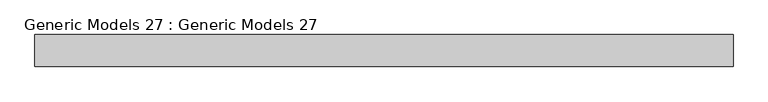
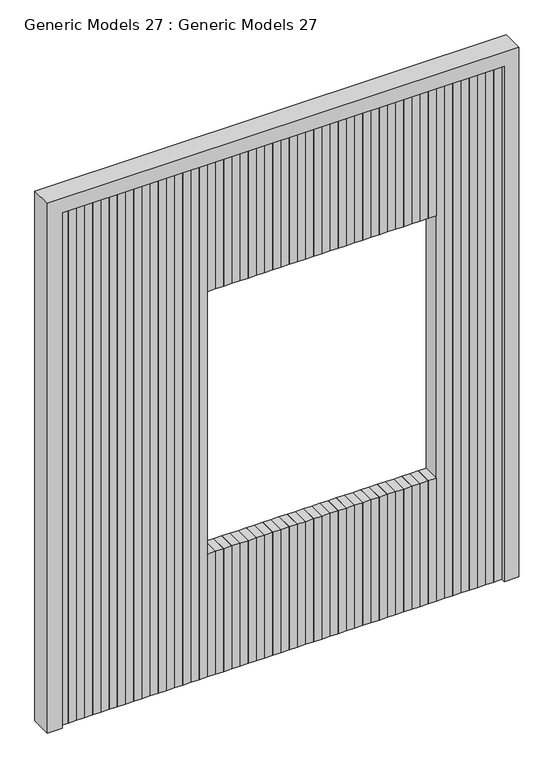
"""IFC4 building model written with IfcOpenShell, lengths in millimetres: proxy geometry, Generic Models 27 : Generic Models 27."""

from ifc_helpers import new_model, si_unit, frame, origin, place, context, project, spatial, polyline, outline, extrude, source, transform, mapped, element, save


def generic_models_27_generic_models_27_ee769881(model_context):
    return source(origin(), model_context, "Body", "SweptSolid", [
        extrude(outline(polyline([(-9366.3710399, -1835.2290985), (-9394.1375598, -1835.2290985), (-9394.1375598, -1775.9666501), (-9366.3710399, -1775.9666501), (-9366.3710399, -1835.2290985)])), frame((0.0, 0.0, 300.0), z_axis=(0.0, 0.0, 1.0), x_axis=(1.0, 0.0, 0.0)), (0.0, 0.0, 1.0), 1850.0),
        extrude(outline(polyline([(-9338.60452, -1835.2290985), (-9366.3710399, -1835.2290985), (-9366.3710399, -1775.9666501), (-9338.60452, -1775.9666501), (-9338.60452, -1835.2290985)])), frame((0.0, 0.0, 1682.5612123), z_axis=(0.0, 0.0, 1.0), x_axis=(1.0, 0.0, 0.0)), (0.0, 0.0, 1.0), 467.4387877),
        extrude(outline(polyline([(-9338.60452, -1835.2290985), (-9366.3710399, -1835.2290985), (-9366.3710399, -1775.9666501), (-9338.60452, -1775.9666501), (-9338.60452, -1835.2290985)])), frame((0.0, 0.0, 300.0), z_axis=(0.0, 0.0, 1.0), x_axis=(1.0, 0.0, 0.0)), (0.0, 0.0, 1.0), 440.9262315),
        extrude(outline(polyline([(-9310.8380002, -1835.2290985), (-9338.60452, -1835.2290985), (-9338.60452, -1775.9666501), (-9310.8380002, -1775.9666501), (-9310.8380002, -1835.2290985)])), frame((0.0, 0.0, 1682.5612123), z_axis=(0.0, 0.0, 1.0), x_axis=(1.0, 0.0, 0.0)), (0.0, 0.0, 1.0), 467.4387877),
        extrude(outline(polyline([(-9310.8380002, -1835.2290985), (-9338.60452, -1835.2290985), (-9338.60452, -1775.9666501), (-9310.8380002, -1775.9666501), (-9310.8380002, -1835.2290985)])), frame((0.0, 0.0, 300.0), z_axis=(0.0, 0.0, 1.0), x_axis=(1.0, 0.0, 0.0)), (0.0, 0.0, 1.0), 440.9262315),
        extrude(outline(polyline([(-9283.0714803, -1835.2290985), (-9310.8380002, -1835.2290985), (-9310.8380002, -1775.9666501), (-9283.0714803, -1775.9666501), (-9283.0714803, -1835.2290985)])), frame((0.0, 0.0, 1682.5612123), z_axis=(0.0, 0.0, 1.0), x_axis=(1.0, 0.0, 0.0)), (0.0, 0.0, 1.0), 467.4387877),
        extrude(outline(polyline([(-9283.0714803, -1835.2290985), (-9310.8380002, -1835.2290985), (-9310.8380002, -1775.9666501), (-9283.0714803, -1775.9666501), (-9283.0714803, -1835.2290985)])), frame((0.0, 0.0, 300.0), z_axis=(0.0, 0.0, 1.0), x_axis=(1.0, 0.0, 0.0)), (0.0, 0.0, 1.0), 440.9262315),
        extrude(outline(polyline([(-9255.3049604, -1835.2290985), (-9283.0714803, -1835.2290985), (-9283.0714803, -1775.9666501), (-9255.3049604, -1775.9666501), (-9255.3049604, -1835.2290985)])), frame((0.0, 0.0, 1682.5612123), z_axis=(0.0, 0.0, 1.0), x_axis=(1.0, 0.0, 0.0)), (0.0, 0.0, 1.0), 467.4387877),
        extrude(outline(polyline([(-9255.3049604, -1835.2290985), (-9283.0714803, -1835.2290985), (-9283.0714803, -1775.9666501), (-9255.3049604, -1775.9666501), (-9255.3049604, -1835.2290985)])), frame((0.0, 0.0, 300.0), z_axis=(0.0, 0.0, 1.0), x_axis=(1.0, 0.0, 0.0)), (0.0, 0.0, 1.0), 440.9262315),
        extrude(outline(polyline([(-9227.5384405, -1835.2290985), (-9255.3049604, -1835.2290985), (-9255.3049604, -1775.9666501), (-9227.5384405, -1775.9666501), (-9227.5384405, -1835.2290985)])), frame((0.0, 0.0, 1682.5612123), z_axis=(0.0, 0.0, 1.0), x_axis=(1.0, 0.0, 0.0)), (0.0, 0.0, 1.0), 467.4387877),
        extrude(outline(polyline([(-9227.5384405, -1835.2290985), (-9255.3049604, -1835.2290985), (-9255.3049604, -1775.9666501), (-9227.5384405, -1775.9666501), (-9227.5384405, -1835.2290985)])), frame((0.0, 0.0, 300.0), z_axis=(0.0, 0.0, 1.0), x_axis=(1.0, 0.0, 0.0)), (0.0, 0.0, 1.0), 440.9262315),
        extrude(outline(polyline([(-9199.7719206, -1835.2290985), (-9227.5384405, -1835.2290985), (-9227.5384405, -1775.9666501), (-9199.7719206, -1775.9666501), (-9199.7719206, -1835.2290985)])), frame((0.0, 0.0, 1682.5612123), z_axis=(0.0, 0.0, 1.0), x_axis=(1.0, 0.0, 0.0)), (0.0, 0.0, 1.0), 467.4387877),
        extrude(outline(polyline([(-9199.7719206, -1835.2290985), (-9227.5384405, -1835.2290985), (-9227.5384405, -1775.9666501), (-9199.7719206, -1775.9666501), (-9199.7719206, -1835.2290985)])), frame((0.0, 0.0, 300.0), z_axis=(0.0, 0.0, 1.0), x_axis=(1.0, 0.0, 0.0)), (0.0, 0.0, 1.0), 440.9262315),
        extrude(outline(polyline([(-9172.0054007, -1835.2290985), (-9199.7719206, -1835.2290985), (-9199.7719206, -1775.9666501), (-9172.0054007, -1775.9666501), (-9172.0054007, -1835.2290985)])), frame((0.0, 0.0, 1682.5612123), z_axis=(0.0, 0.0, 1.0), x_axis=(1.0, 0.0, 0.0)), (0.0, 0.0, 1.0), 467.4387877),
        extrude(outline(polyline([(-9172.0054007, -1835.2290985), (-9199.7719206, -1835.2290985), (-9199.7719206, -1775.9666501), (-9172.0054007, -1775.9666501), (-9172.0054007, -1835.2290985)])), frame((0.0, 0.0, 300.0), z_axis=(0.0, 0.0, 1.0), x_axis=(1.0, 0.0, 0.0)), (0.0, 0.0, 1.0), 440.9262315),
        extrude(outline(polyline([(-9144.2388809, -1835.2290985), (-9172.0054007, -1835.2290985), (-9172.0054007, -1775.9666501), (-9144.2388809, -1775.9666501), (-9144.2388809, -1835.2290985)])), frame((0.0, 0.0, 1682.5612123), z_axis=(0.0, 0.0, 1.0), x_axis=(1.0, 0.0, 0.0)), (0.0, 0.0, 1.0), 467.4387877),
        extrude(outline(polyline([(-9144.2388809, -1835.2290985), (-9172.0054007, -1835.2290985), (-9172.0054007, -1775.9666501), (-9144.2388809, -1775.9666501), (-9144.2388809, -1835.2290985)])), frame((0.0, 0.0, 300.0), z_axis=(0.0, 0.0, 1.0), x_axis=(1.0, 0.0, 0.0)), (0.0, 0.0, 1.0), 440.9262315),
        extrude(outline(polyline([(-9116.472361, -1835.2290985), (-9144.2388809, -1835.2290985), (-9144.2388809, -1775.9666501), (-9116.472361, -1775.9666501), (-9116.472361, -1835.2290985)])), frame((0.0, 0.0, 1682.5612123), z_axis=(0.0, 0.0, 1.0), x_axis=(1.0, 0.0, 0.0)), (0.0, 0.0, 1.0), 467.4387877),
        extrude(outline(polyline([(-9116.472361, -1835.2290985), (-9144.2388809, -1835.2290985), (-9144.2388809, -1775.9666501), (-9116.472361, -1775.9666501), (-9116.472361, -1835.2290985)])), frame((0.0, 0.0, 300.0), z_axis=(0.0, 0.0, 1.0), x_axis=(1.0, 0.0, 0.0)), (0.0, 0.0, 1.0), 440.9262315),
        extrude(outline(polyline([(-9088.7058411, -1835.2290985), (-9116.472361, -1835.2290985), (-9116.472361, -1775.9666501), (-9088.7058411, -1775.9666501), (-9088.7058411, -1835.2290985)])), frame((0.0, 0.0, 1682.5612123), z_axis=(0.0, 0.0, 1.0), x_axis=(1.0, 0.0, 0.0)), (0.0, 0.0, 1.0), 467.4387877),
        extrude(outline(polyline([(-9088.7058411, -1835.2290985), (-9116.472361, -1835.2290985), (-9116.472361, -1775.9666501), (-9088.7058411, -1775.9666501), (-9088.7058411, -1835.2290985)])), frame((0.0, 0.0, 300.0), z_axis=(0.0, 0.0, 1.0), x_axis=(1.0, 0.0, 0.0)), (0.0, 0.0, 1.0), 440.9262315),
        extrude(outline(polyline([(-9060.9393212, -1835.2290985), (-9088.7058411, -1835.2290985), (-9088.7058411, -1775.9666501), (-9060.9393212, -1775.9666501), (-9060.9393212, -1835.2290985)])), frame((0.0, 0.0, 1682.5612123), z_axis=(0.0, 0.0, 1.0), x_axis=(1.0, 0.0, 0.0)), (0.0, 0.0, 1.0), 467.4387877),
        extrude(outline(polyline([(-9060.9393212, -1835.2290985), (-9088.7058411, -1835.2290985), (-9088.7058411, -1775.9666501), (-9060.9393212, -1775.9666501), (-9060.9393212, -1835.2290985)])), frame((0.0, 0.0, 300.0), z_axis=(0.0, 0.0, 1.0), x_axis=(1.0, 0.0, 0.0)), (0.0, 0.0, 1.0), 440.9262315),
        extrude(outline(polyline([(-9033.1728013, -1835.2290985), (-9060.9393212, -1835.2290985), (-9060.9393212, -1775.9666501), (-9033.1728013, -1775.9666501), (-9033.1728013, -1835.2290985)])), frame((0.0, 0.0, 1682.5612123), z_axis=(0.0, 0.0, 1.0), x_axis=(1.0, 0.0, 0.0)), (0.0, 0.0, 1.0), 467.4387877),
        extrude(outline(polyline([(-9033.1728013, -1835.2290985), (-9060.9393212, -1835.2290985), (-9060.9393212, -1775.9666501), (-9033.1728013, -1775.9666501), (-9033.1728013, -1835.2290985)])), frame((0.0, 0.0, 300.0), z_axis=(0.0, 0.0, 1.0), x_axis=(1.0, 0.0, 0.0)), (0.0, 0.0, 1.0), 440.9262315),
        extrude(outline(polyline([(-9005.4062814, -1835.2290985), (-9033.1728013, -1835.2290985), (-9033.1728013, -1775.9666501), (-9005.4062814, -1775.9666501), (-9005.4062814, -1835.2290985)])), frame((0.0, 0.0, 1682.5612123), z_axis=(0.0, 0.0, 1.0), x_axis=(1.0, 0.0, 0.0)), (0.0, 0.0, 1.0), 467.4387877),
        extrude(outline(polyline([(-9005.4062814, -1835.2290985), (-9033.1728013, -1835.2290985), (-9033.1728013, -1775.9666501), (-9005.4062814, -1775.9666501), (-9005.4062814, -1835.2290985)])), frame((0.0, 0.0, 300.0), z_axis=(0.0, 0.0, 1.0), x_axis=(1.0, 0.0, 0.0)), (0.0, 0.0, 1.0), 440.9262315),
        extrude(outline(polyline([(-8977.6397615, -1835.2290985), (-9005.4062814, -1835.2290985), (-9005.4062814, -1775.9666501), (-8977.6397615, -1775.9666501), (-8977.6397615, -1835.2290985)])), frame((0.0, 0.0, 1682.5612123), z_axis=(0.0, 0.0, 1.0), x_axis=(1.0, 0.0, 0.0)), (0.0, 0.0, 1.0), 467.4387877),
        extrude(outline(polyline([(-8977.6397615, -1835.2290985), (-9005.4062814, -1835.2290985), (-9005.4062814, -1775.9666501), (-8977.6397615, -1775.9666501), (-8977.6397615, -1835.2290985)])), frame((0.0, 0.0, 300.0), z_axis=(0.0, 0.0, 1.0), x_axis=(1.0, 0.0, 0.0)), (0.0, 0.0, 1.0), 440.9262315),
        extrude(outline(polyline([(-8949.8732417, -1835.2290985), (-8977.6397615, -1835.2290985), (-8977.6397615, -1775.9666501), (-8949.8732417, -1775.9666501), (-8949.8732417, -1835.2290985)])), frame((0.0, 0.0, 1682.5612123), z_axis=(0.0, 0.0, 1.0), x_axis=(1.0, 0.0, 0.0)), (0.0, 0.0, 1.0), 467.4387877),
        extrude(outline(polyline([(-8949.8732417, -1835.2290985), (-8977.6397615, -1835.2290985), (-8977.6397615, -1775.9666501), (-8949.8732417, -1775.9666501), (-8949.8732417, -1835.2290985)])), frame((0.0, 0.0, 300.0), z_axis=(0.0, 0.0, 1.0), x_axis=(1.0, 0.0, 0.0)), (0.0, 0.0, 1.0), 440.9262315),
        extrude(outline(polyline([(-8922.1067218, -1835.2290985), (-8949.8732417, -1835.2290985), (-8949.8732417, -1775.9666501), (-8922.1067218, -1775.9666501), (-8922.1067218, -1835.2290985)])), frame((0.0, 0.0, 1682.5612123), z_axis=(0.0, 0.0, 1.0), x_axis=(1.0, 0.0, 0.0)), (0.0, 0.0, 1.0), 467.4387877),
        extrude(outline(polyline([(-8922.1067218, -1835.2290985), (-8949.8732417, -1835.2290985), (-8949.8732417, -1775.9666501), (-8922.1067218, -1775.9666501), (-8922.1067218, -1835.2290985)])), frame((0.0, 0.0, 300.0), z_axis=(0.0, 0.0, 1.0), x_axis=(1.0, 0.0, 0.0)), (0.0, 0.0, 1.0), 440.9262315),
        extrude(outline(polyline([(-8894.3402019, -1835.2290985), (-8922.1067218, -1835.2290985), (-8922.1067218, -1775.9666501), (-8894.3402019, -1775.9666501), (-8894.3402019, -1835.2290985)])), frame((0.0, 0.0, 1682.5612123), z_axis=(0.0, 0.0, 1.0), x_axis=(1.0, 0.0, 0.0)), (0.0, 0.0, 1.0), 467.4387877),
        extrude(outline(polyline([(-8894.3402019, -1835.2290985), (-8922.1067218, -1835.2290985), (-8922.1067218, -1775.9666501), (-8894.3402019, -1775.9666501), (-8894.3402019, -1835.2290985)])), frame((0.0, 0.0, 300.0), z_axis=(0.0, 0.0, 1.0), x_axis=(1.0, 0.0, 0.0)), (0.0, 0.0, 1.0), 440.9262315),
        extrude(outline(polyline([(-8866.573682, -1835.2290985), (-8894.3402019, -1835.2290985), (-8894.3402019, -1775.9666501), (-8866.573682, -1775.9666501), (-8866.573682, -1835.2290985)])), frame((0.0, 0.0, 1682.5612123), z_axis=(0.0, 0.0, 1.0), x_axis=(1.0, 0.0, 0.0)), (0.0, 0.0, 1.0), 467.4387877),
        extrude(outline(polyline([(-8866.573682, -1835.2290985), (-8894.3402019, -1835.2290985), (-8894.3402019, -1775.9666501), (-8866.573682, -1775.9666501), (-8866.573682, -1835.2290985)])), frame((0.0, 0.0, 300.0), z_axis=(0.0, 0.0, 1.0), x_axis=(1.0, 0.0, 0.0)), (0.0, 0.0, 1.0), 440.9262315),
        extrude(outline(polyline([(-8838.8071621, -1835.2290985), (-8866.573682, -1835.2290985), (-8866.573682, -1775.9666501), (-8838.8071621, -1775.9666501), (-8838.8071621, -1835.2290985)])), frame((0.0, 0.0, 1682.5612123), z_axis=(0.0, 0.0, 1.0), x_axis=(1.0, 0.0, 0.0)), (0.0, 0.0, 1.0), 467.4387877),
        extrude(outline(polyline([(-8838.8071621, -1835.2290985), (-8866.573682, -1835.2290985), (-8866.573682, -1775.9666501), (-8838.8071621, -1775.9666501), (-8838.8071621, -1835.2290985)])), frame((0.0, 0.0, 300.0), z_axis=(0.0, 0.0, 1.0), x_axis=(1.0, 0.0, 0.0)), (0.0, 0.0, 1.0), 440.9262315),
        extrude(outline(polyline([(-8811.0406422, -1835.2290985), (-8838.8071621, -1835.2290985), (-8838.8071621, -1775.9666501), (-8811.0406422, -1775.9666501), (-8811.0406422, -1835.2290985)])), frame((0.0, 0.0, 1682.5612123), z_axis=(0.0, 0.0, 1.0), x_axis=(1.0, 0.0, 0.0)), (0.0, 0.0, 1.0), 467.4387877),
        extrude(outline(polyline([(-8811.0406422, -1835.2290985), (-8838.8071621, -1835.2290985), (-8838.8071621, -1775.9666501), (-8811.0406422, -1775.9666501), (-8811.0406422, -1835.2290985)])), frame((0.0, 0.0, 300.0), z_axis=(0.0, 0.0, 1.0), x_axis=(1.0, 0.0, 0.0)), (0.0, 0.0, 1.0), 440.9262315),
        extrude(outline(polyline([(-8783.2741224, -1835.2290985), (-8811.0406422, -1835.2290985), (-8811.0406422, -1775.9666501), (-8783.2741224, -1775.9666501), (-8783.2741224, -1835.2290985)])), frame((0.0, 0.0, 1682.5612123), z_axis=(0.0, 0.0, 1.0), x_axis=(1.0, 0.0, 0.0)), (0.0, 0.0, 1.0), 467.4387877),
        extrude(outline(polyline([(-8783.2741224, -1835.2290985), (-8811.0406422, -1835.2290985), (-8811.0406422, -1775.9666501), (-8783.2741224, -1775.9666501), (-8783.2741224, -1835.2290985)])), frame((0.0, 0.0, 300.0), z_axis=(0.0, 0.0, 1.0), x_axis=(1.0, 0.0, 0.0)), (0.0, 0.0, 1.0), 440.9262315),
        extrude(outline(polyline([(-8755.5076025, -1835.2290985), (-8783.2741224, -1835.2290985), (-8783.2741224, -1775.9666501), (-8755.5076025, -1775.9666501), (-8755.5076025, -1835.2290985)])), frame((0.0, 0.0, 1682.5612123), z_axis=(0.0, 0.0, 1.0), x_axis=(1.0, 0.0, 0.0)), (0.0, 0.0, 1.0), 467.4387877),
        extrude(outline(polyline([(-8755.5076025, -1835.2290985), (-8783.2741224, -1835.2290985), (-8783.2741224, -1775.9666501), (-8755.5076025, -1775.9666501), (-8755.5076025, -1835.2290985)])), frame((0.0, 0.0, 300.0), z_axis=(0.0, 0.0, 1.0), x_axis=(1.0, 0.0, 0.0)), (0.0, 0.0, 1.0), 440.9262315),
        extrude(outline(polyline([(-8727.7410826, -1835.2290985), (-8755.5076025, -1835.2290985), (-8755.5076025, -1775.9666501), (-8727.7410826, -1775.9666501), (-8727.7410826, -1835.2290985)])), frame((0.0, 0.0, 1682.5612123), z_axis=(0.0, 0.0, 1.0), x_axis=(1.0, 0.0, 0.0)), (0.0, 0.0, 1.0), 467.4387877),
        extrude(outline(polyline([(-8727.7410826, -1835.2290985), (-8755.5076025, -1835.2290985), (-8755.5076025, -1775.9666501), (-8727.7410826, -1775.9666501), (-8727.7410826, -1835.2290985)])), frame((0.0, 0.0, 300.0), z_axis=(0.0, 0.0, 1.0), x_axis=(1.0, 0.0, 0.0)), (0.0, 0.0, 1.0), 440.9262315),
        extrude(outline(polyline([(-8699.9745627, -1835.2290985), (-8727.7410826, -1835.2290985), (-8727.7410826, -1775.9666501), (-8699.9745627, -1775.9666501), (-8699.9745627, -1835.2290985)])), frame((0.0, 0.0, 1682.5612123), z_axis=(0.0, 0.0, 1.0), x_axis=(1.0, 0.0, 0.0)), (0.0, 0.0, 1.0), 467.4387877),
        extrude(outline(polyline([(-8699.9745627, -1835.2290985), (-8727.7410826, -1835.2290985), (-8727.7410826, -1775.9666501), (-8699.9745627, -1775.9666501), (-8699.9745627, -1835.2290985)])), frame((0.0, 0.0, 300.0), z_axis=(0.0, 0.0, 1.0), x_axis=(1.0, 0.0, 0.0)), (0.0, 0.0, 1.0), 440.9262315),
        extrude(outline(polyline([(-8672.2080428, -1835.2290985), (-8699.9745627, -1835.2290985), (-8699.9745627, -1775.9666501), (-8672.2080428, -1775.9666501), (-8672.2080428, -1835.2290985)])), frame((0.0, 0.0, 1682.5612123), z_axis=(0.0, 0.0, 1.0), x_axis=(1.0, 0.0, 0.0)), (0.0, 0.0, 1.0), 467.4387877),
        extrude(outline(polyline([(-8672.2080428, -1835.2290985), (-8699.9745627, -1835.2290985), (-8699.9745627, -1775.9666501), (-8672.2080428, -1775.9666501), (-8672.2080428, -1835.2290985)])), frame((0.0, 0.0, 300.0), z_axis=(0.0, 0.0, 1.0), x_axis=(1.0, 0.0, 0.0)), (0.0, 0.0, 1.0), 440.9262315),
        extrude(outline(polyline([(-8644.4415229, -1835.2290985), (-8672.2080428, -1835.2290985), (-8672.2080428, -1775.9666501), (-8644.4415229, -1775.9666501), (-8644.4415229, -1835.2290985)])), frame((0.0, 0.0, 1682.5612123), z_axis=(0.0, 0.0, 1.0), x_axis=(1.0, 0.0, 0.0)), (0.0, 0.0, 1.0), 467.4387877),
        extrude(outline(polyline([(-8644.4415229, -1835.2290985), (-8672.2080428, -1835.2290985), (-8672.2080428, -1775.9666501), (-8644.4415229, -1775.9666501), (-8644.4415229, -1835.2290985)])), frame((0.0, 0.0, 300.0), z_axis=(0.0, 0.0, 1.0), x_axis=(1.0, 0.0, 0.0)), (0.0, 0.0, 1.0), 440.9262315),
        extrude(outline(polyline([(-8616.675003, -1835.2290985), (-8644.4415229, -1835.2290985), (-8644.4415229, -1775.9666501), (-8616.675003, -1775.9666501), (-8616.675003, -1835.2290985)])), frame((0.0, 0.0, 1682.5612123), z_axis=(0.0, 0.0, 1.0), x_axis=(1.0, 0.0, 0.0)), (0.0, 0.0, 1.0), 467.4387877),
        extrude(outline(polyline([(-8616.675003, -1835.2290985), (-8644.4415229, -1835.2290985), (-8644.4415229, -1775.9666501), (-8616.675003, -1775.9666501), (-8616.675003, -1835.2290985)])), frame((0.0, 0.0, 300.0), z_axis=(0.0, 0.0, 1.0), x_axis=(1.0, 0.0, 0.0)), (0.0, 0.0, 1.0), 440.9262315),
        extrude(outline(polyline([(-8588.9084832, -1835.2290985), (-8616.675003, -1835.2290985), (-8616.675003, -1775.9666501), (-8588.9084832, -1775.9666501), (-8588.9084832, -1835.2290985)])), frame((0.0, 0.0, 1682.5612123), z_axis=(0.0, 0.0, 1.0), x_axis=(1.0, 0.0, 0.0)), (0.0, 0.0, 1.0), 467.4387877),
        extrude(outline(polyline([(-8588.9084832, -1835.2290985), (-8616.675003, -1835.2290985), (-8616.675003, -1775.9666501), (-8588.9084832, -1775.9666501), (-8588.9084832, -1835.2290985)])), frame((0.0, 0.0, 300.0), z_axis=(0.0, 0.0, 1.0), x_axis=(1.0, 0.0, 0.0)), (0.0, 0.0, 1.0), 440.9262315),
        extrude(outline(polyline([(-8561.1419633, -1835.2290985), (-8588.9084832, -1835.2290985), (-8588.9084832, -1775.9666501), (-8561.1419633, -1775.9666501), (-8561.1419633, -1835.2290985)])), frame((0.0, 0.0, 300.0), z_axis=(0.0, 0.0, 1.0), x_axis=(1.0, 0.0, 0.0)), (0.0, 0.0, 1.0), 1850.0),
        extrude(outline(polyline([(-9866.1683979, -1835.2290985), (-9893.9349177, -1835.2290985), (-9893.9349177, -1775.9666501), (-9866.1683979, -1775.9666501), (-9866.1683979, -1835.2290985)])), frame((0.0, 0.0, 300.0), z_axis=(0.0, 0.0, 1.0), x_axis=(1.0, 0.0, 0.0)), (0.0, 0.0, 1.0), 1850.0),
        extrude(outline(polyline([(-9838.401878, -1835.2290985), (-9866.1683979, -1835.2290985), (-9866.1683979, -1775.9666501), (-9838.401878, -1775.9666501), (-9838.401878, -1835.2290985)])), frame((0.0, 0.0, 300.0), z_axis=(0.0, 0.0, 1.0), x_axis=(1.0, 0.0, 0.0)), (0.0, 0.0, 1.0), 1850.0),
        extrude(outline(polyline([(-9810.6353581, -1835.2290985), (-9838.401878, -1835.2290985), (-9838.401878, -1775.9666501), (-9810.6353581, -1775.9666501), (-9810.6353581, -1835.2290985)])), frame((0.0, 0.0, 300.0), z_axis=(0.0, 0.0, 1.0), x_axis=(1.0, 0.0, 0.0)), (0.0, 0.0, 1.0), 1850.0),
        extrude(outline(polyline([(-9782.8688382, -1835.2290985), (-9810.6353581, -1835.2290985), (-9810.6353581, -1775.9666501), (-9782.8688382, -1775.9666501), (-9782.8688382, -1835.2290985)])), frame((0.0, 0.0, 300.0), z_axis=(0.0, 0.0, 1.0), x_axis=(1.0, 0.0, 0.0)), (0.0, 0.0, 1.0), 1850.0),
        extrude(outline(polyline([(-9755.1023183, -1835.2290985), (-9782.8688382, -1835.2290985), (-9782.8688382, -1775.9666501), (-9755.1023183, -1775.9666501), (-9755.1023183, -1835.2290985)])), frame((0.0, 0.0, 300.0), z_axis=(0.0, 0.0, 1.0), x_axis=(1.0, 0.0, 0.0)), (0.0, 0.0, 1.0), 1850.0),
        extrude(outline(polyline([(-9727.3357984, -1835.2290985), (-9755.1023183, -1835.2290985), (-9755.1023183, -1775.9666501), (-9727.3357984, -1775.9666501), (-9727.3357984, -1835.2290985)])), frame((0.0, 0.0, 300.0), z_axis=(0.0, 0.0, 1.0), x_axis=(1.0, 0.0, 0.0)), (0.0, 0.0, 1.0), 1850.0),
        extrude(outline(polyline([(-9699.5692786, -1835.2290985), (-9727.3357984, -1835.2290985), (-9727.3357984, -1775.9666501), (-9699.5692786, -1775.9666501), (-9699.5692786, -1835.2290985)])), frame((0.0, 0.0, 300.0), z_axis=(0.0, 0.0, 1.0), x_axis=(1.0, 0.0, 0.0)), (0.0, 0.0, 1.0), 1850.0),
        extrude(outline(polyline([(-9671.8027587, -1835.2290985), (-9699.5692786, -1835.2290985), (-9699.5692786, -1775.9666501), (-9671.8027587, -1775.9666501), (-9671.8027587, -1835.2290985)])), frame((0.0, 0.0, 300.0), z_axis=(0.0, 0.0, 1.0), x_axis=(1.0, 0.0, 0.0)), (0.0, 0.0, 1.0), 1850.0),
        extrude(outline(polyline([(-9644.0362388, -1835.2290985), (-9671.8027587, -1835.2290985), (-9671.8027587, -1775.9666501), (-9644.0362388, -1775.9666501), (-9644.0362388, -1835.2290985)])), frame((0.0, 0.0, 300.0), z_axis=(0.0, 0.0, 1.0), x_axis=(1.0, 0.0, 0.0)), (0.0, 0.0, 1.0), 1850.0),
        extrude(outline(polyline([(-9616.2697189, -1835.2290985), (-9644.0362388, -1835.2290985), (-9644.0362388, -1775.9666501), (-9616.2697189, -1775.9666501), (-9616.2697189, -1835.2290985)])), frame((0.0, 0.0, 300.0), z_axis=(0.0, 0.0, 1.0), x_axis=(1.0, 0.0, 0.0)), (0.0, 0.0, 1.0), 1850.0),
        extrude(outline(polyline([(-9588.503199, -1835.2290985), (-9616.2697189, -1835.2290985), (-9616.2697189, -1775.9666501), (-9588.503199, -1775.9666501), (-9588.503199, -1835.2290985)])), frame((0.0, 0.0, 300.0), z_axis=(0.0, 0.0, 1.0), x_axis=(1.0, 0.0, 0.0)), (0.0, 0.0, 1.0), 1850.0),
        extrude(outline(polyline([(-9560.7366791, -1835.2290985), (-9588.503199, -1835.2290985), (-9588.503199, -1775.9666501), (-9560.7366791, -1775.9666501), (-9560.7366791, -1835.2290985)])), frame((0.0, 0.0, 300.0), z_axis=(0.0, 0.0, 1.0), x_axis=(1.0, 0.0, 0.0)), (0.0, 0.0, 1.0), 1850.0),
        extrude(outline(polyline([(-9532.9701592, -1835.2290985), (-9560.7366791, -1835.2290985), (-9560.7366791, -1775.9666501), (-9532.9701592, -1775.9666501), (-9532.9701592, -1835.2290985)])), frame((0.0, 0.0, 300.0), z_axis=(0.0, 0.0, 1.0), x_axis=(1.0, 0.0, 0.0)), (0.0, 0.0, 1.0), 1850.0),
        extrude(outline(polyline([(-9505.2036394, -1835.2290985), (-9532.9701592, -1835.2290985), (-9532.9701592, -1775.9666501), (-9505.2036394, -1775.9666501), (-9505.2036394, -1835.2290985)])), frame((0.0, 0.0, 300.0), z_axis=(0.0, 0.0, 1.0), x_axis=(1.0, 0.0, 0.0)), (0.0, 0.0, 1.0), 1850.0),
        extrude(outline(polyline([(-9477.4371195, -1835.2290985), (-9505.2036394, -1835.2290985), (-9505.2036394, -1775.9666501), (-9477.4371195, -1775.9666501), (-9477.4371195, -1835.2290985)])), frame((0.0, 0.0, 300.0), z_axis=(0.0, 0.0, 1.0), x_axis=(1.0, 0.0, 0.0)), (0.0, 0.0, 1.0), 1850.0),
        extrude(outline(polyline([(-9449.6705996, -1835.2290985), (-9477.4371195, -1835.2290985), (-9477.4371195, -1775.9666501), (-9449.6705996, -1775.9666501), (-9449.6705996, -1835.2290985)])), frame((0.0, 0.0, 300.0), z_axis=(0.0, 0.0, 1.0), x_axis=(1.0, 0.0, 0.0)), (0.0, 0.0, 1.0), 1850.0),
        extrude(outline(polyline([(-9421.9040797, -1835.2290985), (-9449.6705996, -1835.2290985), (-9449.6705996, -1775.9666501), (-9421.9040797, -1775.9666501), (-9421.9040797, -1835.2290985)])), frame((0.0, 0.0, 300.0), z_axis=(0.0, 0.0, 1.0), x_axis=(1.0, 0.0, 0.0)), (0.0, 0.0, 1.0), 1850.0),
        extrude(outline(polyline([(-9394.1375598, -1835.2290985), (-9421.9040797, -1835.2290985), (-9421.9040797, -1775.9666501), (-9394.1375598, -1775.9666501), (-9394.1375598, -1835.2290985)])), frame((0.0, 0.0, 300.0), z_axis=(0.0, 0.0, 1.0), x_axis=(1.0, 0.0, 0.0)), (0.0, 0.0, 1.0), 1850.0),
        extrude(outline(polyline([(-8533.3754434, -1835.2290985), (-8561.1419633, -1835.2290985), (-8561.1419633, -1775.9666501), (-8533.3754434, -1775.9666501), (-8533.3754434, -1835.2290985)])), frame((0.0, 0.0, 300.0), z_axis=(0.0, 0.0, 1.0), x_axis=(1.0, 0.0, 0.0)), (0.0, 0.0, 1.0), 1850.0),
        extrude(outline(polyline([(-8505.6089235, -1835.2290985), (-8533.3754434, -1835.2290985), (-8533.3754434, -1775.9666501), (-8505.6089235, -1775.9666501), (-8505.6089235, -1835.2290985)])), frame((0.0, 0.0, 300.0), z_axis=(0.0, 0.0, 1.0), x_axis=(1.0, 0.0, 0.0)), (0.0, 0.0, 1.0), 1850.0),
        extrude(outline(polyline([(-8477.8424036, -1835.2290985), (-8505.6089235, -1835.2290985), (-8505.6089235, -1775.9666501), (-8477.8424036, -1775.9666501), (-8477.8424036, -1835.2290985)])), frame((0.0, 0.0, 300.0), z_axis=(0.0, 0.0, 1.0), x_axis=(1.0, 0.0, 0.0)), (0.0, 0.0, 1.0), 1850.0),
        extrude(outline(polyline([(-8450.0758837, -1835.2290985), (-8477.8424036, -1835.2290985), (-8477.8424036, -1775.9666501), (-8450.0758837, -1775.9666501), (-8450.0758837, -1835.2290985)])), frame((0.0, 0.0, 300.0), z_axis=(0.0, 0.0, 1.0), x_axis=(1.0, 0.0, 0.0)), (0.0, 0.0, 1.0), 1850.0),
        extrude(outline(polyline([(-8422.3093639, -1835.2290985), (-8450.0758837, -1835.2290985), (-8450.0758837, -1775.9666501), (-8422.3093639, -1775.9666501), (-8422.3093639, -1835.2290985)])), frame((0.0, 0.0, 300.0), z_axis=(0.0, 0.0, 1.0), x_axis=(1.0, 0.0, 0.0)), (0.0, 0.0, 1.0), 1850.0),
        extrude(outline(polyline([(-8394.542844, -1835.2290985), (-8422.3093639, -1835.2290985), (-8422.3093639, -1775.9666501), (-8394.542844, -1775.9666501), (-8394.542844, -1835.2290985)])), frame((0.0, 0.0, 300.0), z_axis=(0.0, 0.0, 1.0), x_axis=(1.0, 0.0, 0.0)), (0.0, 0.0, 1.0), 1850.0),
        extrude(outline(polyline([(-8366.7763241, -1835.2290985), (-8394.542844, -1835.2290985), (-8394.542844, -1775.9666501), (-8366.7763241, -1775.9666501), (-8366.7763241, -1835.2290985)])), frame((0.0, 0.0, 300.0), z_axis=(0.0, 0.0, 1.0), x_axis=(1.0, 0.0, 0.0)), (0.0, 0.0, 1.0), 1850.0),
        extrude(outline(polyline([(2200.0, -8316.7763241), (2200.0, -9916.7763241), (300.0, -9916.7763241), (300.0, -9866.7763241), (2150.0, -9866.7763241), (2150.0, -8366.7763241), (300.0, -8366.7763241), (300.0, -8316.7763241), (2200.0, -8316.7763241)])), frame((0.0, -1849.3897122, 0.0), z_axis=(0.0, 1.0, 0.0), x_axis=(0.0, 0.0, 1.0)), (0.0, 0.0, 1.0), 73.4230621),
    ])


if __name__ == "__main__":
    model = new_model("IFC4")
    model_context = context("Model", 3, world=origin())
    ifc_project = project(units=[si_unit("LENGTHUNIT", "METRE", prefix="MILLI")], contexts=[model_context])
    site = spatial("IfcSite", under=ifc_project)
    building = spatial("IfcBuilding", under=site)
    placement = place(None, origin())
    generic_models_27_generic_models_27_shape = generic_models_27_generic_models_27_ee769881(model_context)
    element("IfcBuildingElementProxy", 1, Name="Generic Models 27 : Generic Models 27", ObjectType="Generic Models 27 : Generic Models 27", at=placement, inside=building, context=model_context, shape_type="MappedRepresentation", body=[
        mapped(generic_models_27_generic_models_27_shape, transform((0.0, 0.0, 0.0), x_axis=(1.0, 0.0, 0.0), y_axis=(0.0, 1.0, 0.0), z_axis=(0.0, 0.0, 1.0))),
    ])
    save(model, "model.ifc")
